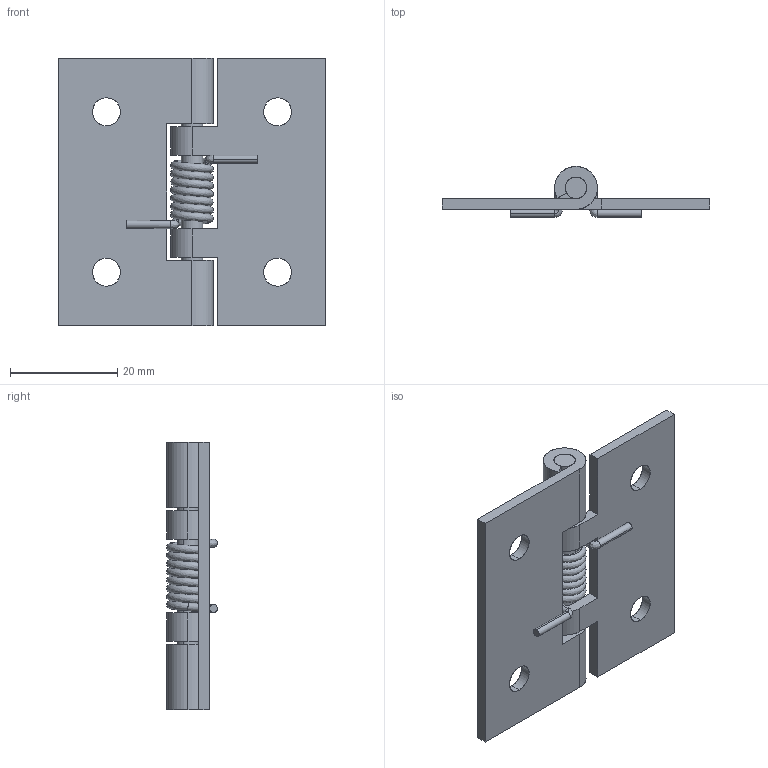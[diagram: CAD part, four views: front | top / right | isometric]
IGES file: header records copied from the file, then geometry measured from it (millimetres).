
Start section: SolidWorks IGES file using analytic representation for surfaces
Global section: file name: C:\Users\cbrechard\Desktop\CC 1422 E\CC 1422 E.IGS; native system: SolidWorks 2008; preprocessor: SolidWorks 2008; author: cbrechard; date: 120123.145558; units: millimetre
Bounding box: 50 x 9.5 x 50 mm (x, y, z)
Surface area: 7838.6 mm2 (no closed solid volume)
Topology: 0 solids, 0 shells, 77 faces, 1094 edges, 1092 vertices
Faces by surface type: revolution 42, bspline 35
